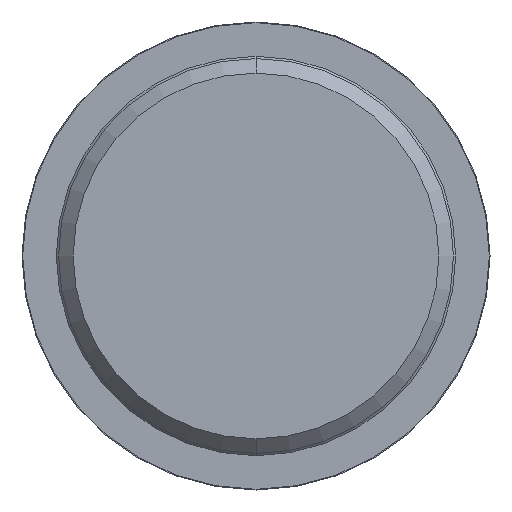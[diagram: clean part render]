
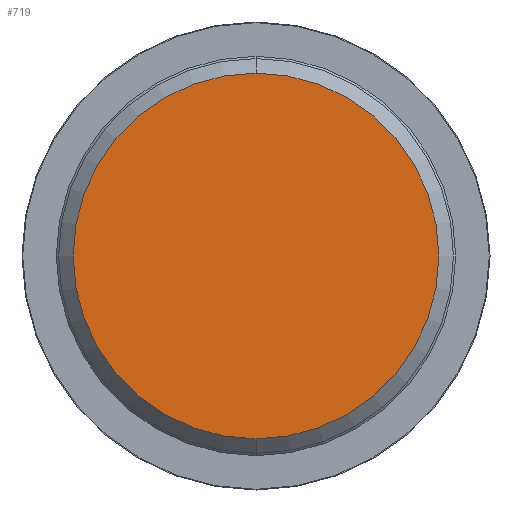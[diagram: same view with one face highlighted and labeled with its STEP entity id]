
A CAD part, front view. The second image highlights one B-rep face of the part: STEP entity #719.
In plain terms, the highlighted planar face has unit normal (0, -1, 0).
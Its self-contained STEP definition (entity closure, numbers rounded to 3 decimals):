
#21 = DIRECTION ( 'NONE',  ( 0., 1., 0. ) ) ;
#103 = CARTESIAN_POINT ( 'NONE',  ( 12.5, 0., 0. ) ) ;
#160 = DIRECTION ( 'NONE',  ( 0., 1., 0. ) ) ;
#241 = CARTESIAN_POINT ( 'NONE',  ( 0., 0., 0. ) ) ;
#248 = ORIENTED_EDGE ( 'NONE', *, *, #567, .F. ) ;
#269 = PLANE ( 'NONE',  #631 ) ;
#275 = EDGE_CURVE ( 'NONE', #413, #608, #823, .T. ) ;
#277 = AXIS2_PLACEMENT_3D ( 'NONE', #241, #21, #557 ) ;
#310 = CARTESIAN_POINT ( 'NONE',  ( 0., 0., 0. ) ) ;
#348 = AXIS2_PLACEMENT_3D ( 'NONE', #310, #160, #766 ) ;
#413 = VERTEX_POINT ( 'NONE', #792 ) ;
#494 = FACE_OUTER_BOUND ( 'NONE', #555, .T. ) ;
#528 = ORIENTED_EDGE ( 'NONE', *, *, #275, .F. ) ;
#540 = CARTESIAN_POINT ( 'NONE',  ( 0., 0., 12.5 ) ) ;
#555 = EDGE_LOOP ( 'NONE', ( #248, #528 ) ) ;
#557 = DIRECTION ( 'NONE',  ( 0., 0., 1. ) ) ;
#567 = EDGE_CURVE ( 'NONE', #608, #413, #940, .T. ) ;
#608 = VERTEX_POINT ( 'NONE', #540 ) ;
#631 = AXIS2_PLACEMENT_3D ( 'NONE', #103, #947, #936 ) ;
#719 = ADVANCED_FACE ( 'NONE', ( #494 ), #269, .F. ) ;
#766 = DIRECTION ( 'NONE',  ( 0., 0., 1. ) ) ;
#792 = CARTESIAN_POINT ( 'NONE',  ( 0., 0., -12.5 ) ) ;
#823 = CIRCLE ( 'NONE', #277, 12.5 ) ;
#936 = DIRECTION ( 'NONE',  ( 0., 0., 1. ) ) ;
#940 = CIRCLE ( 'NONE', #348, 12.5 ) ;
#947 = DIRECTION ( 'NONE',  ( 0., 1., 0. ) ) ;
